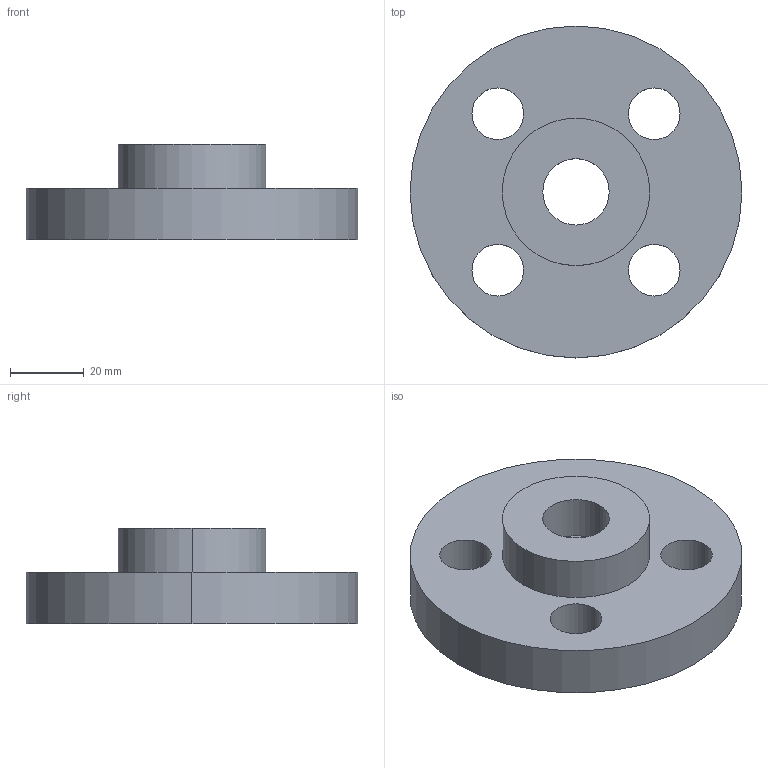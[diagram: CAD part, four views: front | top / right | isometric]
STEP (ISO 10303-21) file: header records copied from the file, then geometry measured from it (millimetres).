
FILE_DESCRIPTION (( 'STEP AP214' ), '1' );
FILE_NAME ('PN40 DN10 Type 02 in 32 - (Type A Face).STEP', '2018-12-29T05:19:48', ( '' ), ( '' ), 'SwSTEP 2.0', 'SolidWorks 2019', '' );
FILE_SCHEMA (( 'AUTOMOTIVE_DESIGN' ));
Length unit declared in the file: millimetre
Products named in the file (1): PN40 DN10 Type 02 in 32 - (Type A Face)
Bounding box: 90 x 90 x 26 mm (x, y, z)
Volume: 87295.4 mm3; surface area: 22230.9 mm2
Topology: 2 solids, 2 shells, 22 faces, 52 edges, 34 vertices
Faces by surface type: cylinder 16, plane 4, cone 2
Entity records: 721 total; most frequent: DIRECTION 132, CARTESIAN_POINT 109, ORIENTED_EDGE 104, AXIS2_PLACEMENT_3D 57, EDGE_CURVE 52, CIRCLE 34, VERTEX_POINT 34, EDGE_LOOP 34
